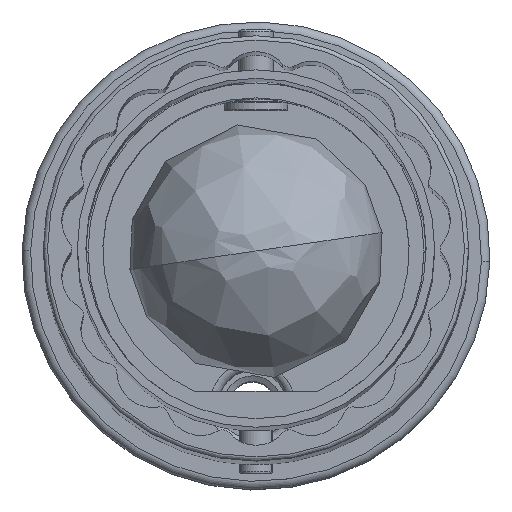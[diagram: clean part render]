
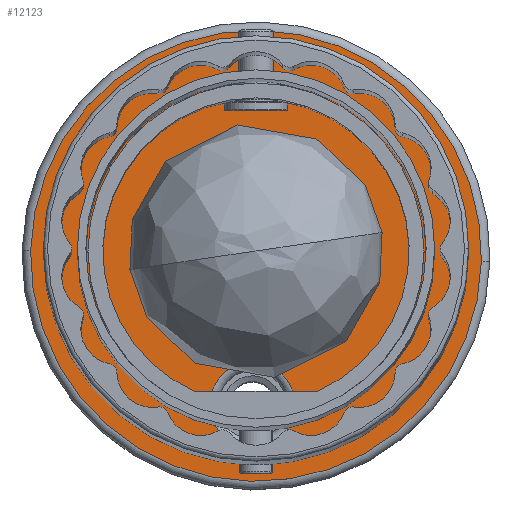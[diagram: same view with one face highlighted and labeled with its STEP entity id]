
A CAD part, top view. The second image highlights one B-rep face of the part: STEP entity #12123.
In plain terms, the highlighted planar face has unit normal (0, 0, 1).
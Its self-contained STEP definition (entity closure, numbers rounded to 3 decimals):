
#176 = EDGE_CURVE ( 'NONE', #912, #11782, #724, .T. ) ;
#323 = DIRECTION ( 'NONE',  ( -1., 0.024, 0. ) ) ;
#357 = CARTESIAN_POINT ( 'NONE',  ( 0., 0., -507.545 ) ) ;
#450 = CARTESIAN_POINT ( 'NONE',  ( 0., 0., -507.545 ) ) ;
#724 = CIRCLE ( 'NONE', #9423, 10. ) ;
#781 = DIRECTION ( 'NONE',  ( 0., 0., -1. ) ) ;
#900 = CIRCLE ( 'NONE', #6140, 53. ) ;
#912 = VERTEX_POINT ( 'NONE', #9602 ) ;
#1330 = EDGE_CURVE ( 'NONE', #2999, #10741, #7354, .T. ) ;
#1331 = DIRECTION ( 'NONE',  ( -1., 0.024, 0. ) ) ;
#1416 = DIRECTION ( 'NONE',  ( -1., 0.024, 0. ) ) ;
#1596 = FACE_BOUND ( 'NONE', #10865, .T. ) ;
#1667 = EDGE_CURVE ( 'NONE', #8854, #8749, #7199, .T. ) ;
#1896 = CIRCLE ( 'NONE', #4202, 10. ) ;
#2301 = ORIENTED_EDGE ( 'NONE', *, *, #176, .T. ) ;
#2669 = CARTESIAN_POINT ( 'NONE',  ( -0.832, -34.99, -507.545 ) ) ;
#2863 = ORIENTED_EDGE ( 'NONE', *, *, #12066, .T. ) ;
#2999 = VERTEX_POINT ( 'NONE', #4761 ) ;
#3594 = DIRECTION ( 'NONE',  ( -1., 0.024, 0. ) ) ;
#3713 = DIRECTION ( 'NONE',  ( 0., 0., -1. ) ) ;
#3751 = CARTESIAN_POINT ( 'NONE',  ( 52.985, -1.261, -507.545 ) ) ;
#4202 = AXIS2_PLACEMENT_3D ( 'NONE', #11615, #5988, #323 ) ;
#4648 = DIRECTION ( 'NONE',  ( -1., 0.024, 0. ) ) ;
#4698 = AXIS2_PLACEMENT_3D ( 'NONE', #450, #7047, #1416 ) ;
#4761 = CARTESIAN_POINT ( 'NONE',  ( -10.83, -34.752, -507.545 ) ) ;
#5020 = DIRECTION ( 'NONE',  ( 0., 0., -1. ) ) ;
#5028 = ORIENTED_EDGE ( 'NONE', *, *, #7608, .T. ) ;
#5300 = CIRCLE ( 'NONE', #12146, 10. ) ;
#5719 = CARTESIAN_POINT ( 'NONE',  ( -52.985, 1.261, -507.545 ) ) ;
#5988 = DIRECTION ( 'NONE',  ( 0., 0., -1. ) ) ;
#6030 = PLANE ( 'NONE',  #10522 ) ;
#6045 = EDGE_CURVE ( 'NONE', #8749, #8854, #900, .T. ) ;
#6140 = AXIS2_PLACEMENT_3D ( 'NONE', #10650, #5020, #11601 ) ;
#6199 = AXIS2_PLACEMENT_3D ( 'NONE', #6450, #781, #7380 ) ;
#6310 = FACE_BOUND ( 'NONE', #11438, .T. ) ;
#6450 = CARTESIAN_POINT ( 'NONE',  ( -0.832, -34.99, -507.545 ) ) ;
#7047 = DIRECTION ( 'NONE',  ( 0., 0., -1. ) ) ;
#7199 = CIRCLE ( 'NONE', #4698, 53. ) ;
#7354 = CIRCLE ( 'NONE', #6199, 10. ) ;
#7364 = EDGE_LOOP ( 'NONE', ( #10006, #7689 ) ) ;
#7380 = DIRECTION ( 'NONE',  ( -1., 0.024, 0. ) ) ;
#7608 = EDGE_CURVE ( 'NONE', #10741, #2999, #5300, .T. ) ;
#7689 = ORIENTED_EDGE ( 'NONE', *, *, #6045, .F. ) ;
#8208 = ORIENTED_EDGE ( 'NONE', *, *, #1330, .T. ) ;
#8749 = VERTEX_POINT ( 'NONE', #3751 ) ;
#8774 = FACE_OUTER_BOUND ( 'NONE', #7364, .T. ) ;
#8814 = DIRECTION ( 'NONE',  ( 0., 0., -1. ) ) ;
#8854 = VERTEX_POINT ( 'NONE', #5719 ) ;
#9207 = CARTESIAN_POINT ( 'NONE',  ( 9.165, -35.228, -507.545 ) ) ;
#9225 = DIRECTION ( 'NONE',  ( 0., 0., -1. ) ) ;
#9340 = CARTESIAN_POINT ( 'NONE',  ( 0., 0., -507.545 ) ) ;
#9423 = AXIS2_PLACEMENT_3D ( 'NONE', #9340, #3713, #4648 ) ;
#9602 = CARTESIAN_POINT ( 'NONE',  ( 9.997, -0.238, -507.545 ) ) ;
#9984 = CARTESIAN_POINT ( 'NONE',  ( -9.997, 0.238, -507.545 ) ) ;
#10006 = ORIENTED_EDGE ( 'NONE', *, *, #1667, .F. ) ;
#10522 = AXIS2_PLACEMENT_3D ( 'NONE', #357, #8814, #1331 ) ;
#10650 = CARTESIAN_POINT ( 'NONE',  ( 0., 0., -507.545 ) ) ;
#10741 = VERTEX_POINT ( 'NONE', #9207 ) ;
#10865 = EDGE_LOOP ( 'NONE', ( #8208, #5028 ) ) ;
#11438 = EDGE_LOOP ( 'NONE', ( #2863, #2301 ) ) ;
#11601 = DIRECTION ( 'NONE',  ( -1., 0.024, 0. ) ) ;
#11615 = CARTESIAN_POINT ( 'NONE',  ( 0., 0., -507.545 ) ) ;
#11782 = VERTEX_POINT ( 'NONE', #9984 ) ;
#12066 = EDGE_CURVE ( 'NONE', #11782, #912, #1896, .T. ) ;
#12123 = ADVANCED_FACE ( 'NONE', ( #1596, #6310, #8774 ), #6030, .F. ) ;
#12146 = AXIS2_PLACEMENT_3D ( 'NONE', #2669, #9225, #3594 ) ;
